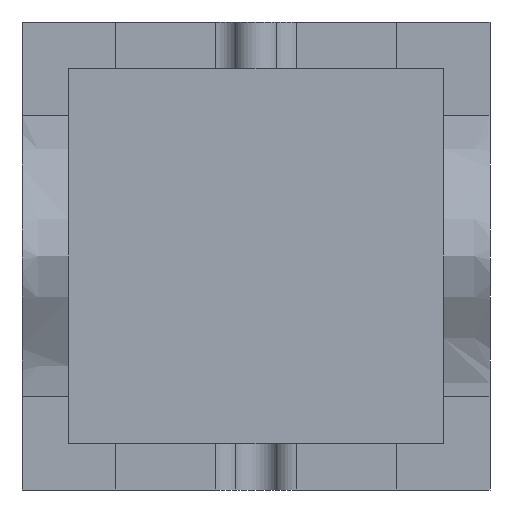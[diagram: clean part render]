
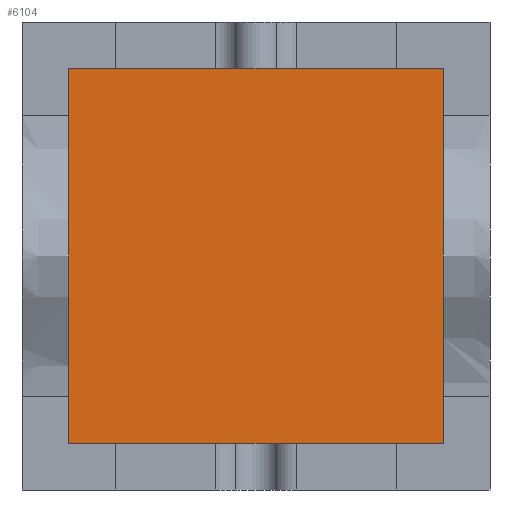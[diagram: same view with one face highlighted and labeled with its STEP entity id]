
A CAD part, front view. The second image highlights one B-rep face of the part: STEP entity #6104.
In plain terms, the highlighted planar face has unit normal (0, -1, 0).
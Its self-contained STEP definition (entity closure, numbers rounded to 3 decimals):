
#5978=CARTESIAN_POINT('Vertex',(-20.,-30.,-20.)) ;
#5983=CARTESIAN_POINT('Line Origine',(-20.,-30.,60.5)) ;
#5987=CARTESIAN_POINT('Vertex',(-20.,-30.,141.)) ;
#6014=CARTESIAN_POINT('Line Origine',(60.5,-30.,141.)) ;
#6018=CARTESIAN_POINT('Vertex',(141.,-30.,141.)) ;
#6045=CARTESIAN_POINT('Line Origine',(141.,-30.,60.5)) ;
#6049=CARTESIAN_POINT('Vertex',(141.,-30.,-20.)) ;
#6076=CARTESIAN_POINT('Line Origine',(60.5,-30.,-20.)) ;
#6093=CARTESIAN_POINT('Axis2P3D Location',(0.,-30.,0.)) ;
#5984=DIRECTION('Vector Direction',(0.,0.,-1.)) ;
#6015=DIRECTION('Vector Direction',(1.,0.,0.)) ;
#6046=DIRECTION('Vector Direction',(0.,0.,1.)) ;
#6077=DIRECTION('Vector Direction',(-1.,0.,0.)) ;
#6094=DIRECTION('Axis2P3D Direction',(0.,1.,0.)) ;
#6095=DIRECTION('Axis2P3D XDirection',(-1.,0.,0.)) ;
#6096=AXIS2_PLACEMENT_3D('Plane Axis2P3D',#6093,#6094,#6095) ;
#6099=ORIENTED_EDGE('',*,*,#6080,.F.) ;
#6100=ORIENTED_EDGE('',*,*,#6051,.F.) ;
#6101=ORIENTED_EDGE('',*,*,#6020,.F.) ;
#6102=ORIENTED_EDGE('',*,*,#5989,.F.) ;
#5985=VECTOR('Line Direction',#5984,1.) ;
#6016=VECTOR('Line Direction',#6015,1.) ;
#6047=VECTOR('Line Direction',#6046,1.) ;
#6078=VECTOR('Line Direction',#6077,1.) ;
#6104=ADVANCED_FACE('Cavity-molde',(#6103),#6097,.F.) ;
#5989=EDGE_CURVE('',#5979,#5988,#5986,.F.) ;
#6020=EDGE_CURVE('',#5988,#6019,#6017,.T.) ;
#6051=EDGE_CURVE('',#6019,#6050,#6048,.F.) ;
#6080=EDGE_CURVE('',#6050,#5979,#6079,.T.) ;
#6098=EDGE_LOOP('',(#6099,#6100,#6101,#6102)) ;
#6103=FACE_OUTER_BOUND('',#6098,.T.) ;
#5986=LINE('Line',#5983,#5985) ;
#6017=LINE('Line',#6014,#6016) ;
#6048=LINE('Line',#6045,#6047) ;
#6079=LINE('Line',#6076,#6078) ;
#6097=PLANE('',#6096) ;
#5979=VERTEX_POINT('',#5978) ;
#5988=VERTEX_POINT('',#5987) ;
#6019=VERTEX_POINT('',#6018) ;
#6050=VERTEX_POINT('',#6049) ;
